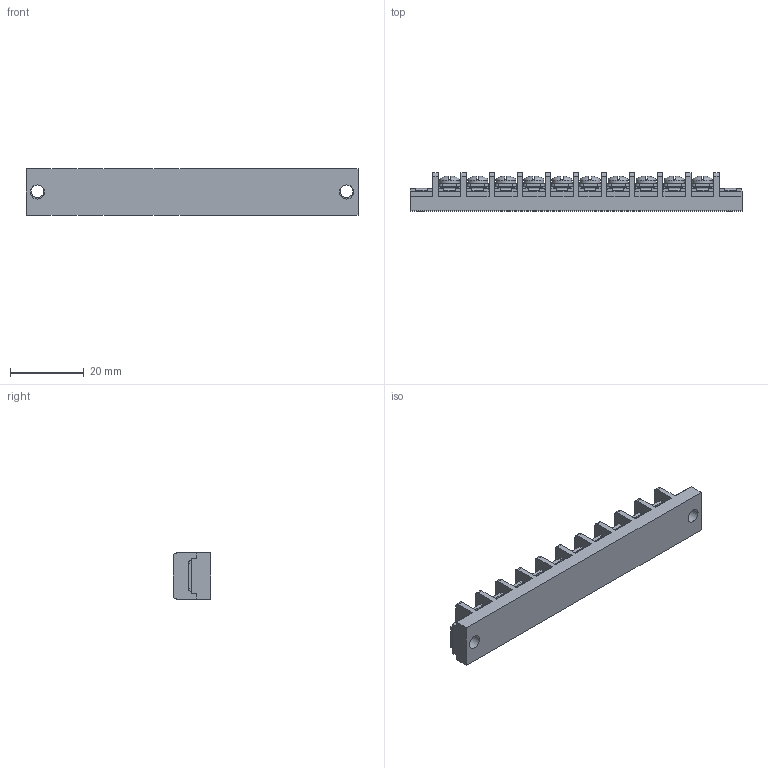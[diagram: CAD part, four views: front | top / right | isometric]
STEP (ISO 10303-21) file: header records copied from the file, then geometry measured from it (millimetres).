
FILE_DESCRIPTION(/* description */ ('Alibre Inc.'),/* implementation_level */ '2;1');
FILE_NAME(/* name */ 'export0',/* time_stamp */ '2015-10-26T18:14:15+09:00',/* author */ (''),/* organization */ (''),/* preprocessor_version */ 'ST-DEVELOPER v14',/* originating_system */ 'Alibre',/* authorisation */ '');
FILE_SCHEMA (('CONFIG_CONTROL_DESIGN'));
Length unit declared in the file: centimetre
Products named in the file (1): ID_1
Bounding box: 90.02 x 10.3 x 12.5 mm (x, y, z)
Volume: 7719.7 mm3; surface area: 6839.6 mm2
Topology: 1 solids, 17 shells, 1366 faces, 3746 edges, 2466 vertices
Faces by surface type: plane 1062, cylinder 120, bspline 104, cone 40, torus 20, sphere 20
Full cylindrical faces by diameter (mm): 3 x10, 3.5 x2, 3.8 x2, 5.5 x10
Entity records: 41015 total; most frequent: CARTESIAN_POINT 9099, ORIENTED_EDGE 7316, DIRECTION 5062, EDGE_CURVE 3658, VECTOR 2596, LINE 2596, VERTEX_POINT 2422, AXIS2_PLACEMENT_3D 1713
